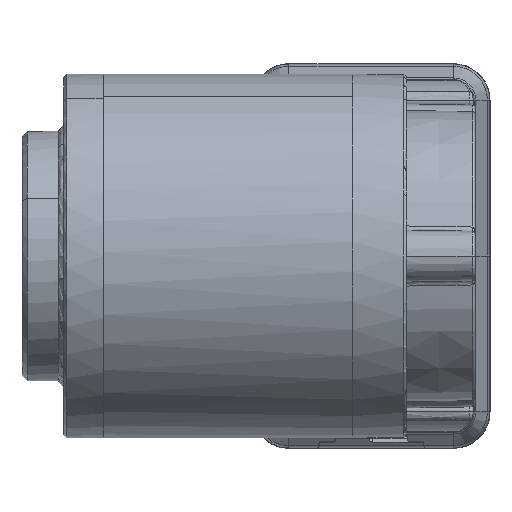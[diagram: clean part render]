
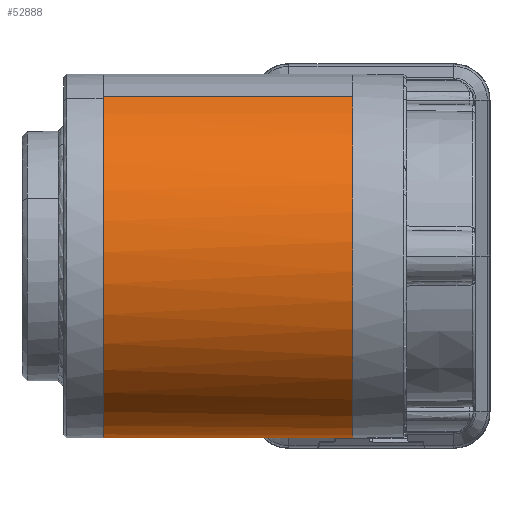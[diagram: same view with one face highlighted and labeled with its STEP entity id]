
A CAD part, front view. The second image highlights one B-rep face of the part: STEP entity #52888.
In plain terms, the highlighted cylindrical face has radius 17.5 mm (diameter 35 mm), a partial arc.
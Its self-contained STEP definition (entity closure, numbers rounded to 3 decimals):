
#1096 = VERTEX_POINT ( 'NONE', #33976 ) ;
#1731 = DIRECTION ( 'NONE',  ( 0., -1., 0. ) ) ;
#2434 = CARTESIAN_POINT ( 'NONE',  ( -0.825, 6.447, -16.269 ) ) ;
#3076 = CARTESIAN_POINT ( 'NONE',  ( -2.105, 7.841, -15.645 ) ) ;
#3267 = CARTESIAN_POINT ( 'NONE',  ( -2.047, 7.694, -15.718 ) ) ;
#4295 = ORIENTED_EDGE ( 'NONE', *, *, #12496, .F. ) ;
#4929 = CARTESIAN_POINT ( 'NONE',  ( -21.2, 6.447, -16.269 ) ) ;
#5492 = EDGE_CURVE ( 'NONE', #14710, #37876, #41821, .T. ) ;
#5957 = EDGE_CURVE ( 'NONE', #24102, #37876, #35257, .T. ) ;
#6448 = CARTESIAN_POINT ( 'NONE',  ( -1.494, 6.796, -16.127 ) ) ;
#7184 = B_SPLINE_CURVE_WITH_KNOTS ( 'NONE', 3,
 ( #28532, #44456, #7231, #2434 ),
 .UNSPECIFIED., .F., .F.,
 ( 4, 4 ),
 ( 0., 1. ),
 .UNSPECIFIED. ) ;
#7231 = CARTESIAN_POINT ( 'NONE',  ( -1.033, 6.448, -16.269 ) ) ;
#7798 = CARTESIAN_POINT ( 'NONE',  ( -1.44, 6.741, -16.15 ) ) ;
#8288 = CARTESIAN_POINT ( 'NONE',  ( -1.874, 7.338, -15.887 ) ) ;
#8601 = B_SPLINE_CURVE_WITH_KNOTS ( 'NONE', 5,
 ( #51346, #56180, #29853, #47109, #33702, #34057, #6448, #38476, #38089, #42899, #11851, #51733, #33877, #37127, #51540, #7798, #42705, #55785 ),
 .UNSPECIFIED., .F., .F.,
 ( 6, 3, 3, 3, 3, 6 ),
 ( 0., 0.804, 0.898, 0.945, 0.969, 0.992 ),
 .UNSPECIFIED. ) ;
#10788 = CARTESIAN_POINT ( 'NONE',  ( -21.2, -8.435, 15.333 ) ) ;
#10905 = ORIENTED_EDGE ( 'NONE', *, *, #5957, .T. ) ;
#11257 = CARTESIAN_POINT ( 'NONE',  ( -2.242, 8.232, -15.445 ) ) ;
#11367 = CARTESIAN_POINT ( 'NONE',  ( -21.2, 0., 0. ) ) ;
#11851 = CARTESIAN_POINT ( 'NONE',  ( -1.458, 6.759, -16.142 ) ) ;
#12116 = VERTEX_POINT ( 'NONE', #20345 ) ;
#12496 = EDGE_CURVE ( 'NONE', #46388, #14710, #15431, .T. ) ;
#13806 = LINE ( 'NONE', #4929, #48102 ) ;
#14005 = VERTEX_POINT ( 'NONE', #26419 ) ;
#14710 = VERTEX_POINT ( 'NONE', #52374 ) ;
#14729 = DIRECTION ( 'NONE',  ( -1., 0., 0. ) ) ;
#14763 = ORIENTED_EDGE ( 'NONE', *, *, #40434, .T. ) ;
#14805 = CARTESIAN_POINT ( 'NONE',  ( 5.3, 0., 0. ) ) ;
#15101 = CARTESIAN_POINT ( 'NONE',  ( -18.7, 0., 0. ) ) ;
#15431 = CIRCLE ( 'NONE', #29893, 17.5 ) ;
#16580 = CARTESIAN_POINT ( 'NONE',  ( -2.016, 7.622, -15.753 ) ) ;
#19976 = CARTESIAN_POINT ( 'NONE',  ( -2.105, 7.841, -15.645 ) ) ;
#20345 = CARTESIAN_POINT ( 'NONE',  ( -2.105, 7.841, -15.645 ) ) ;
#22714 = VECTOR ( 'NONE', #32281, 1000. ) ;
#23061 = CARTESIAN_POINT ( 'NONE',  ( 5.3, 0., 0. ) ) ;
#23257 = DIRECTION ( 'NONE',  ( -1., 0., 0. ) ) ;
#24102 = VERTEX_POINT ( 'NONE', #32955 ) ;
#24324 = VERTEX_POINT ( 'NONE', #39234 ) ;
#26419 = CARTESIAN_POINT ( 'NONE',  ( -1.832, 7.263, -15.922 ) ) ;
#26452 = FACE_OUTER_BOUND ( 'NONE', #48368, .T. ) ;
#27015 = EDGE_CURVE ( 'NONE', #51701, #40535, #13806, .T. ) ;
#27801 = ORIENTED_EDGE ( 'NONE', *, *, #27015, .T. ) ;
#27986 = ORIENTED_EDGE ( 'NONE', *, *, #29032, .T. ) ;
#28528 = CARTESIAN_POINT ( 'NONE',  ( -2.18, 8.034, -15.549 ) ) ;
#28532 = CARTESIAN_POINT ( 'NONE',  ( -1.435, 6.736, -16.152 ) ) ;
#29032 = EDGE_CURVE ( 'NONE', #14005, #24324, #8601, .T. ) ;
#29273 = ORIENTED_EDGE ( 'NONE', *, *, #5492, .F. ) ;
#29365 = CARTESIAN_POINT ( 'NONE',  ( -2.077, 7.767, -15.682 ) ) ;
#29557 = CARTESIAN_POINT ( 'NONE',  ( -1.898, 7.381, -15.867 ) ) ;
#29853 = CARTESIAN_POINT ( 'NONE',  ( -1.717, 7.072, -16.008 ) ) ;
#29893 = AXIS2_PLACEMENT_3D ( 'NONE', #15101, #14729, #45757 ) ;
#30421 = CARTESIAN_POINT ( 'NONE',  ( 5.3, -8.435, 15.333 ) ) ;
#31431 = ORIENTED_EDGE ( 'NONE', *, *, #35193, .T. ) ;
#32281 = DIRECTION ( 'NONE',  ( 1., 0., 0. ) ) ;
#32880 = CARTESIAN_POINT ( 'NONE',  ( -0.825, 6.447, -16.269 ) ) ;
#32955 = CARTESIAN_POINT ( 'NONE',  ( 5.3, 0., -17.5 ) ) ;
#33338 = ORIENTED_EDGE ( 'NONE', *, *, #48526, .T. ) ;
#33702 = CARTESIAN_POINT ( 'NONE',  ( -1.58, 6.889, -16.087 ) ) ;
#33877 = CARTESIAN_POINT ( 'NONE',  ( -1.45, 6.751, -16.145 ) ) ;
#33962 = CARTESIAN_POINT ( 'NONE',  ( -1.85, 7.295, -15.907 ) ) ;
#33976 = CARTESIAN_POINT ( 'NONE',  ( -2.292, 8.435, -15.333 ) ) ;
#34057 = CARTESIAN_POINT ( 'NONE',  ( -1.502, 6.804, -16.123 ) ) ;
#34339 = EDGE_CURVE ( 'NONE', #46388, #1096, #38919, .T. ) ;
#34523 = CARTESIAN_POINT ( 'NONE',  ( -1.927, 7.437, -15.841 ) ) ;
#35193 = EDGE_CURVE ( 'NONE', #40535, #24102, #41565, .T. ) ;
#35257 = CIRCLE ( 'NONE', #55304, 17.5 ) ;
#36181 = VECTOR ( 'NONE', #48338, 1000. ) ;
#37127 = CARTESIAN_POINT ( 'NONE',  ( -1.445, 6.747, -16.147 ) ) ;
#37261 = DIRECTION ( 'NONE',  ( 0., -0.482, 0.876 ) ) ;
#37306 = DIRECTION ( 'NONE',  ( 1., 0., 0. ) ) ;
#37725 = CARTESIAN_POINT ( 'NONE',  ( -18.7, 8.435, -15.333 ) ) ;
#37876 = VERTEX_POINT ( 'NONE', #30421 ) ;
#38089 = CARTESIAN_POINT ( 'NONE',  ( -1.469, 6.77, -16.138 ) ) ;
#38173 = CARTESIAN_POINT ( 'NONE',  ( -1.915, 7.415, -15.852 ) ) ;
#38370 = CARTESIAN_POINT ( 'NONE',  ( -1.832, 7.263, -15.922 ) ) ;
#38476 = CARTESIAN_POINT ( 'NONE',  ( -1.481, 6.783, -16.132 ) ) ;
#38706 = AXIS2_PLACEMENT_3D ( 'NONE', #14805, #23257, #1731 ) ;
#38766 = CARTESIAN_POINT ( 'NONE',  ( -1.973, 7.528, -15.798 ) ) ;
#38919 = LINE ( 'NONE', #39322, #36181 ) ;
#39234 = CARTESIAN_POINT ( 'NONE',  ( -1.435, 6.736, -16.152 ) ) ;
#39322 = CARTESIAN_POINT ( 'NONE',  ( -21.2, 8.435, -15.333 ) ) ;
#39389 = EDGE_CURVE ( 'NONE', #24324, #51701, #7184, .T. ) ;
#39832 = ORIENTED_EDGE ( 'NONE', *, *, #34339, .T. ) ;
#40084 = DIRECTION ( 'NONE',  ( 0., 1., 0. ) ) ;
#40434 = EDGE_CURVE ( 'NONE', #12116, #14005, #46139, .T. ) ;
#40535 = VERTEX_POINT ( 'NONE', #47966 ) ;
#41565 = CIRCLE ( 'NONE', #38706, 17.5 ) ;
#41821 = LINE ( 'NONE', #10788, #22714 ) ;
#42705 = CARTESIAN_POINT ( 'NONE',  ( -1.437, 6.739, -16.151 ) ) ;
#42795 = CARTESIAN_POINT ( 'NONE',  ( -1.862, 7.316, -15.897 ) ) ;
#42899 = CARTESIAN_POINT ( 'NONE',  ( -1.465, 6.766, -16.139 ) ) ;
#44456 = CARTESIAN_POINT ( 'NONE',  ( -1.237, 6.545, -16.231 ) ) ;
#45757 = DIRECTION ( 'NONE',  ( 0., 1., 0. ) ) ;
#46139 = B_SPLINE_CURVE_WITH_KNOTS ( 'NONE', 5,
 ( #3076, #29365, #3267, #16580, #38766, #34523, #38173, #29557, #56068, #8288, #42795, #33962, #51427, #47199, #38370 ),
 .UNSPECIFIED., .F., .F.,
 ( 6, 3, 3, 3, 6 ),
 ( 0., 0.602, 0.798, 0.895, 0.992 ),
 .UNSPECIFIED. ) ;
#46388 = VERTEX_POINT ( 'NONE', #37725 ) ;
#46724 = CARTESIAN_POINT ( 'NONE',  ( -2.292, 8.435, -15.333 ) ) ;
#47109 = CARTESIAN_POINT ( 'NONE',  ( -1.653, 6.982, -16.047 ) ) ;
#47199 = CARTESIAN_POINT ( 'NONE',  ( -1.839, 7.274, -15.916 ) ) ;
#47966 = CARTESIAN_POINT ( 'NONE',  ( 5.3, 6.447, -16.269 ) ) ;
#48102 = VECTOR ( 'NONE', #37306, 1000. ) ;
#48338 = DIRECTION ( 'NONE',  ( 1., 0., 0. ) ) ;
#48368 = EDGE_LOOP ( 'NONE', ( #4295, #39832, #33338, #14763, #27986, #50310, #27801, #31431, #10905, #29273 ) ) ;
#48526 = EDGE_CURVE ( 'NONE', #1096, #12116, #54701, .T. ) ;
#50310 = ORIENTED_EDGE ( 'NONE', *, *, #39389, .T. ) ;
#51346 = CARTESIAN_POINT ( 'NONE',  ( -1.832, 7.263, -15.922 ) ) ;
#51427 = CARTESIAN_POINT ( 'NONE',  ( -1.844, 7.284, -15.912 ) ) ;
#51540 = CARTESIAN_POINT ( 'NONE',  ( -1.441, 6.742, -16.149 ) ) ;
#51701 = VERTEX_POINT ( 'NONE', #32880 ) ;
#51733 = CARTESIAN_POINT ( 'NONE',  ( -1.452, 6.753, -16.145 ) ) ;
#52374 = CARTESIAN_POINT ( 'NONE',  ( -18.7, -8.435, 15.333 ) ) ;
#52888 = ADVANCED_FACE ( 'NONE', ( #26452 ), #54544, .T. ) ;
#53736 = DIRECTION ( 'NONE',  ( -1., 0., 0. ) ) ;
#54544 = CYLINDRICAL_SURFACE ( 'NONE', #55706, 17.5 ) ;
#54701 = B_SPLINE_CURVE_WITH_KNOTS ( 'NONE', 3,
 ( #46724, #11257, #28528, #19976 ),
 .UNSPECIFIED., .F., .F.,
 ( 4, 4 ),
 ( 0., 1. ),
 .UNSPECIFIED. ) ;
#55118 = DIRECTION ( 'NONE',  ( 1., 0., 0. ) ) ;
#55304 = AXIS2_PLACEMENT_3D ( 'NONE', #23061, #53736, #40084 ) ;
#55706 = AXIS2_PLACEMENT_3D ( 'NONE', #11367, #55118, #37261 ) ;
#55785 = CARTESIAN_POINT ( 'NONE',  ( -1.435, 6.736, -16.152 ) ) ;
#56068 = CARTESIAN_POINT ( 'NONE',  ( -1.88, 7.348, -15.882 ) ) ;
#56180 = CARTESIAN_POINT ( 'NONE',  ( -1.776, 7.166, -15.966 ) ) ;
